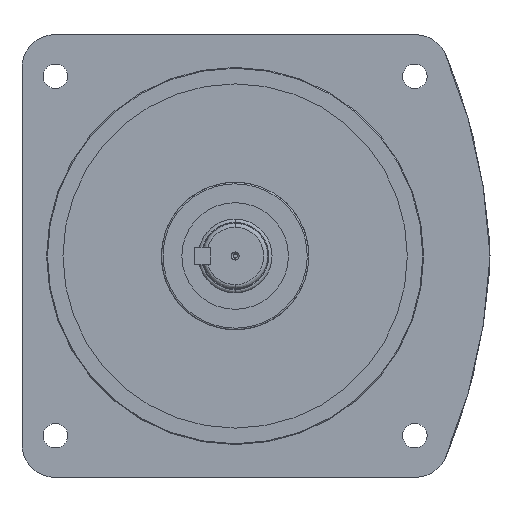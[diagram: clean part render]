
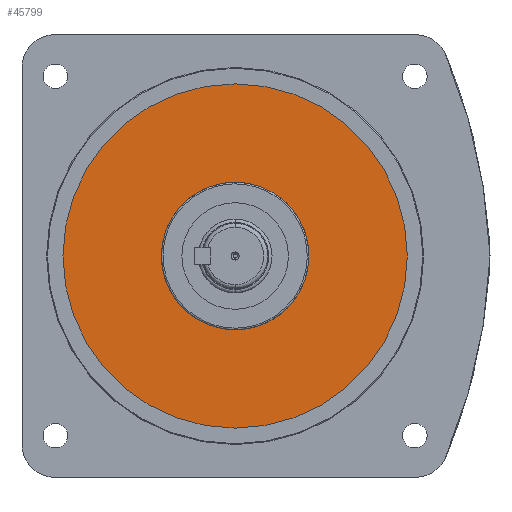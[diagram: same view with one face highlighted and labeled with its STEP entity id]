
A CAD part, left-side view. The second image highlights one B-rep face of the part: STEP entity #45799.
In plain terms, the highlighted planar face has unit normal (-1, 0, 0).
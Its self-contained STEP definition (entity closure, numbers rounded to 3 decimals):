
#1670 = DIRECTION ( 'NONE',  ( -1., 0., 0. ) ) ;
#2017 = CIRCLE ( 'NONE', #42439, 105. ) ;
#2074 = ORIENTED_EDGE ( 'NONE', *, *, #8605, .T. ) ;
#8605 = EDGE_CURVE ( 'NONE', #46378, #69754, #2017, .T. ) ;
#9829 = CIRCLE ( 'NONE', #72174, 45. ) ;
#15697 = AXIS2_PLACEMENT_3D ( 'NONE', #40456, #68226, #26767 ) ;
#16916 = DIRECTION ( 'NONE',  ( -1., 0., 0. ) ) ;
#17300 = CARTESIAN_POINT ( 'NONE',  ( 0., 0., 105. ) ) ;
#19709 = PLANE ( 'NONE',  #15697 ) ;
#20692 = ORIENTED_EDGE ( 'NONE', *, *, #25092, .T. ) ;
#24873 = EDGE_LOOP ( 'NONE', ( #83931, #75210 ) ) ;
#25092 = EDGE_CURVE ( 'NONE', #69754, #46378, #88859, .T. ) ;
#25723 = VERTEX_POINT ( 'NONE', #68701 ) ;
#26767 = DIRECTION ( 'NONE',  ( 0., 0., -1. ) ) ;
#26852 = CIRCLE ( 'NONE', #68492, 45. ) ;
#27574 = FACE_OUTER_BOUND ( 'NONE', #80732, .T. ) ;
#30584 = VERTEX_POINT ( 'NONE', #62037 ) ;
#40456 = CARTESIAN_POINT ( 'NONE',  ( 0., 0., 0. ) ) ;
#42439 = AXIS2_PLACEMENT_3D ( 'NONE', #74147, #74133, #74040 ) ;
#42830 = EDGE_CURVE ( 'NONE', #25723, #30584, #26852, .T. ) ;
#43376 = CARTESIAN_POINT ( 'NONE',  ( 0., 0., 0. ) ) ;
#45799 = ADVANCED_FACE ( 'NONE', ( #48261, #27574 ), #19709, .F. ) ;
#46378 = VERTEX_POINT ( 'NONE', #85703 ) ;
#48261 = FACE_BOUND ( 'NONE', #24873, .T. ) ;
#50344 = DIRECTION ( 'NONE',  ( 0., 0., -1. ) ) ;
#58675 = CARTESIAN_POINT ( 'NONE',  ( 0., 0., 0. ) ) ;
#62037 = CARTESIAN_POINT ( 'NONE',  ( 0., 0., -45. ) ) ;
#65534 = DIRECTION ( 'NONE',  ( 0., 0., -1. ) ) ;
#68226 = DIRECTION ( 'NONE',  ( 1., 0., 0. ) ) ;
#68492 = AXIS2_PLACEMENT_3D ( 'NONE', #58675, #16916, #65534 ) ;
#68701 = CARTESIAN_POINT ( 'NONE',  ( 0., 0., 45. ) ) ;
#69754 = VERTEX_POINT ( 'NONE', #17300 ) ;
#72174 = AXIS2_PLACEMENT_3D ( 'NONE', #43376, #1670, #50344 ) ;
#72335 = AXIS2_PLACEMENT_3D ( 'NONE', #81150, #81056, #80973 ) ;
#74040 = DIRECTION ( 'NONE',  ( 0., 0., -1. ) ) ;
#74133 = DIRECTION ( 'NONE',  ( -1., 0., 0. ) ) ;
#74147 = CARTESIAN_POINT ( 'NONE',  ( 0., 0., 0. ) ) ;
#75210 = ORIENTED_EDGE ( 'NONE', *, *, #42830, .F. ) ;
#80732 = EDGE_LOOP ( 'NONE', ( #2074, #20692 ) ) ;
#80973 = DIRECTION ( 'NONE',  ( 0., 0., -1. ) ) ;
#81056 = DIRECTION ( 'NONE',  ( -1., 0., 0. ) ) ;
#81150 = CARTESIAN_POINT ( 'NONE',  ( 0., 0., 0. ) ) ;
#83931 = ORIENTED_EDGE ( 'NONE', *, *, #89270, .F. ) ;
#85703 = CARTESIAN_POINT ( 'NONE',  ( 0., 0., -105. ) ) ;
#88859 = CIRCLE ( 'NONE', #72335, 105. ) ;
#89270 = EDGE_CURVE ( 'NONE', #30584, #25723, #9829, .T. ) ;
